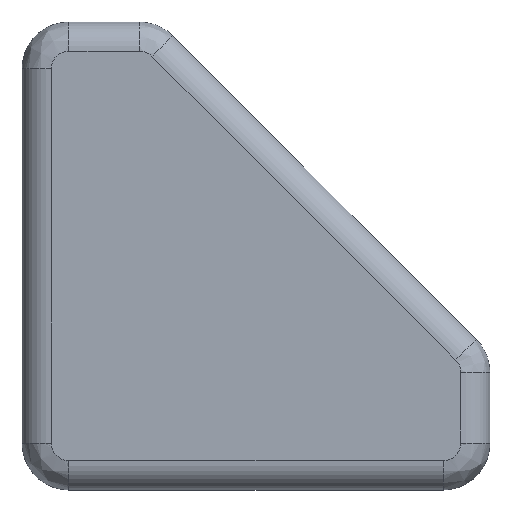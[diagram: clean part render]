
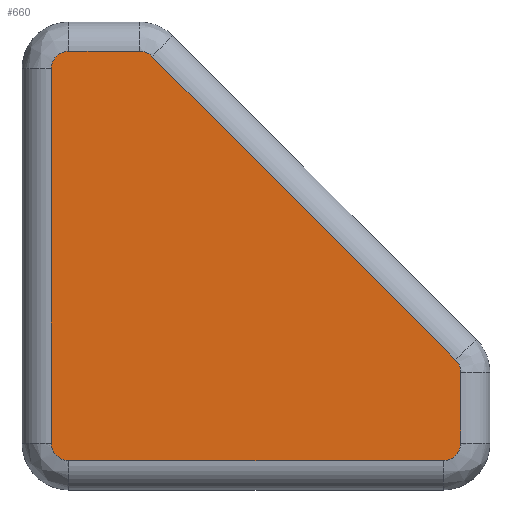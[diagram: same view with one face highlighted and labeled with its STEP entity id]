
A CAD part, top view. The second image highlights one B-rep face of the part: STEP entity #660.
In plain terms, the highlighted planar face has unit normal (0, 0, 1).
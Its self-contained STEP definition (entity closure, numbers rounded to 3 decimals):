
#10 = VERTEX_POINT ( 'NONE', #73 ) ;
#23 = LINE ( 'NONE', #275, #1376 ) ;
#36 = CARTESIAN_POINT ( 'NONE',  ( -17.5, -16., 4. ) ) ;
#62 = CARTESIAN_POINT ( 'NONE',  ( -16., -17.5, 4. ) ) ;
#63 = VECTOR ( 'NONE', #989, 1000. ) ;
#73 = CARTESIAN_POINT ( 'NONE',  ( -16., 17.5, 4. ) ) ;
#81 = CARTESIAN_POINT ( 'NONE',  ( 16.879, -17.5, 4. ) ) ;
#101 = CARTESIAN_POINT ( 'NONE',  ( -9.957, 17.5, 4. ) ) ;
#103 = CARTESIAN_POINT ( 'NONE',  ( -8.896, 17.061, 4. ) ) ;
#124 = CARTESIAN_POINT ( 'NONE',  ( -17.5, 16.879, 4. ) ) ;
#143 = LINE ( 'NONE', #510, #867 ) ;
#145 = VERTEX_POINT ( 'NONE', #466 ) ;
#146 = EDGE_CURVE ( 'NONE', #741, #1191, #684, .T. ) ;
#157 = AXIS2_PLACEMENT_3D ( 'NONE', #973, #1193, #1456 ) ;
#229 = ORIENTED_EDGE ( 'NONE', *, *, #922, .F. ) ;
#252 = CARTESIAN_POINT ( 'NONE',  ( 17.5, -9.957, 4. ) ) ;
#254 = B_SPLINE_CURVE_WITH_KNOTS ( 'NONE', 3,
 ( #1099, #269, #1115, #523, #887, #1219 ),
 .UNSPECIFIED., .F., .F.,
 ( 4, 2, 4 ),
 ( 0., 0.5, 1. ),
 .UNSPECIFIED. ) ;
#266 = VERTEX_POINT ( 'NONE', #463 ) ;
#269 = CARTESIAN_POINT ( 'NONE',  ( -9.037, 17.201, 4. ) ) ;
#275 = CARTESIAN_POINT ( 'NONE',  ( 17.5, -20., 4. ) ) ;
#285 = EDGE_CURVE ( 'NONE', #1191, #1007, #375, .T. ) ;
#357 = DIRECTION ( 'NONE',  ( 0., -1., 0. ) ) ;
#364 = EDGE_LOOP ( 'NONE', ( #498, #229, #731, #1467, #1222, #1247, #1350, #746, #1103, #616 ) ) ;
#368 = EDGE_CURVE ( 'NONE', #1334, #1515, #393, .T. ) ;
#375 = LINE ( 'NONE', #471, #1463 ) ;
#393 =( BOUNDED_CURVE ( )  B_SPLINE_CURVE ( 3, ( #940, #1311, #1215, #252 ),
 .UNSPECIFIED., .F., .F. ) 
 B_SPLINE_CURVE_WITH_KNOTS ( ( 4, 4 ),
 ( 0., 1. ),
 .UNSPECIFIED. ) 
 CURVE ( )  GEOMETRIC_REPRESENTATION_ITEM ( )  RATIONAL_B_SPLINE_CURVE ( ( 1., 0.949, 0.949, 1. ) ) 
 REPRESENTATION_ITEM ( '' )  );
#415 = EDGE_CURVE ( 'NONE', #1007, #145, #1429, .T. ) ;
#442 =( BOUNDED_CURVE ( )  B_SPLINE_CURVE ( 3, ( #456, #124, #1187, #1209 ),
 .UNSPECIFIED., .F., .F. ) 
 B_SPLINE_CURVE_WITH_KNOTS ( ( 4, 4 ),
 ( 0., 1. ),
 .UNSPECIFIED. ) 
 CURVE ( )  GEOMETRIC_REPRESENTATION_ITEM ( )  RATIONAL_B_SPLINE_CURVE ( ( 1., 0.805, 0.805, 1. ) ) 
 REPRESENTATION_ITEM ( '' )  );
#456 = CARTESIAN_POINT ( 'NONE',  ( -17.5, 16., 4. ) ) ;
#463 = CARTESIAN_POINT ( 'NONE',  ( -17.5, 16., 4. ) ) ;
#466 = CARTESIAN_POINT ( 'NONE',  ( -17.5, -16., 4. ) ) ;
#471 = CARTESIAN_POINT ( 'NONE',  ( -20., -17.5, 4. ) ) ;
#473 = CARTESIAN_POINT ( 'NONE',  ( 20., 17.5, 4. ) ) ;
#498 = ORIENTED_EDGE ( 'NONE', *, *, #368, .F. ) ;
#510 = CARTESIAN_POINT ( 'NONE',  ( -17.5, 20., 4. ) ) ;
#523 = CARTESIAN_POINT ( 'NONE',  ( -9.566, 17.462, 4. ) ) ;
#558 = VECTOR ( 'NONE', #685, 1000. ) ;
#563 = CARTESIAN_POINT ( 'NONE',  ( 17.5, -16.879, 4. ) ) ;
#597 = FACE_OUTER_BOUND ( 'NONE', #364, .T. ) ;
#613 = DIRECTION ( 'NONE',  ( 0., 1., 0. ) ) ;
#616 = ORIENTED_EDGE ( 'NONE', *, *, #1502, .F. ) ;
#642 = LINE ( 'NONE', #1462, #63 ) ;
#660 = ADVANCED_FACE ( 'NONE', ( #597 ), #1546, .T. ) ;
#684 =( BOUNDED_CURVE ( )  B_SPLINE_CURVE ( 3, ( #1418, #563, #81, #1079 ),
 .UNSPECIFIED., .F., .T. ) 
 B_SPLINE_CURVE_WITH_KNOTS ( ( 4, 4 ),
 ( 0., 1. ),
 .UNSPECIFIED. ) 
 CURVE ( )  GEOMETRIC_REPRESENTATION_ITEM ( )  RATIONAL_B_SPLINE_CURVE ( ( 1., 0.805, 0.805, 1. ) ) 
 REPRESENTATION_ITEM ( '' )  );
#685 = DIRECTION ( 'NONE',  ( 1., 0., 0. ) ) ;
#693 = CARTESIAN_POINT ( 'NONE',  ( 17.5, -16., 4. ) ) ;
#698 = VERTEX_POINT ( 'NONE', #103 ) ;
#731 = ORIENTED_EDGE ( 'NONE', *, *, #897, .T. ) ;
#741 = VERTEX_POINT ( 'NONE', #693 ) ;
#746 = ORIENTED_EDGE ( 'NONE', *, *, #285, .F. ) ;
#867 = VECTOR ( 'NONE', #613, 1000. ) ;
#871 = EDGE_CURVE ( 'NONE', #145, #266, #143, .T. ) ;
#887 = CARTESIAN_POINT ( 'NONE',  ( -9.758, 17.5, 4. ) ) ;
#897 = EDGE_CURVE ( 'NONE', #698, #1077, #254, .T. ) ;
#922 = EDGE_CURVE ( 'NONE', #698, #1334, #642, .T. ) ;
#940 = CARTESIAN_POINT ( 'NONE',  ( 17.061, -8.896, 4. ) ) ;
#973 = CARTESIAN_POINT ( 'NONE',  ( -3.468, -3.468, 4. ) ) ;
#989 = DIRECTION ( 'NONE',  ( 0.707, -0.707, 0. ) ) ;
#1007 = VERTEX_POINT ( 'NONE', #62 ) ;
#1011 = CARTESIAN_POINT ( 'NONE',  ( -16., -17.5, 4. ) ) ;
#1077 = VERTEX_POINT ( 'NONE', #101 ) ;
#1079 = CARTESIAN_POINT ( 'NONE',  ( 16., -17.5, 4. ) ) ;
#1099 = CARTESIAN_POINT ( 'NONE',  ( -8.896, 17.061, 4. ) ) ;
#1103 = ORIENTED_EDGE ( 'NONE', *, *, #146, .F. ) ;
#1108 = CARTESIAN_POINT ( 'NONE',  ( -16.879, -17.5, 4. ) ) ;
#1115 = CARTESIAN_POINT ( 'NONE',  ( -9.199, 17.31, 4. ) ) ;
#1187 = CARTESIAN_POINT ( 'NONE',  ( -16.879, 17.5, 4. ) ) ;
#1191 = VERTEX_POINT ( 'NONE', #1315 ) ;
#1193 = DIRECTION ( 'NONE',  ( 0., 0., 1. ) ) ;
#1209 = CARTESIAN_POINT ( 'NONE',  ( -16., 17.5, 4. ) ) ;
#1215 = CARTESIAN_POINT ( 'NONE',  ( 17.5, -9.554, 4. ) ) ;
#1219 = CARTESIAN_POINT ( 'NONE',  ( -9.957, 17.5, 4. ) ) ;
#1222 = ORIENTED_EDGE ( 'NONE', *, *, #1225, .F. ) ;
#1225 = EDGE_CURVE ( 'NONE', #266, #10, #442, .T. ) ;
#1247 = ORIENTED_EDGE ( 'NONE', *, *, #871, .F. ) ;
#1284 = EDGE_CURVE ( 'NONE', #10, #1077, #1549, .T. ) ;
#1311 = CARTESIAN_POINT ( 'NONE',  ( 17.346, -9.181, 4. ) ) ;
#1315 = CARTESIAN_POINT ( 'NONE',  ( 16., -17.5, 4. ) ) ;
#1334 = VERTEX_POINT ( 'NONE', #1452 ) ;
#1350 = ORIENTED_EDGE ( 'NONE', *, *, #415, .F. ) ;
#1357 = CARTESIAN_POINT ( 'NONE',  ( 17.5, -9.957, 4. ) ) ;
#1376 = VECTOR ( 'NONE', #357, 1000. ) ;
#1418 = CARTESIAN_POINT ( 'NONE',  ( 17.5, -16., 4. ) ) ;
#1429 =( BOUNDED_CURVE ( )  B_SPLINE_CURVE ( 3, ( #1011, #1108, #1487, #36 ),
 .UNSPECIFIED., .F., .F. ) 
 B_SPLINE_CURVE_WITH_KNOTS ( ( 4, 4 ),
 ( 0., 1. ),
 .UNSPECIFIED. ) 
 CURVE ( )  GEOMETRIC_REPRESENTATION_ITEM ( )  RATIONAL_B_SPLINE_CURVE ( ( 1., 0.805, 0.805, 1. ) ) 
 REPRESENTATION_ITEM ( '' )  );
#1444 = DIRECTION ( 'NONE',  ( -1., 0., 0. ) ) ;
#1452 = CARTESIAN_POINT ( 'NONE',  ( 17.061, -8.896, 4. ) ) ;
#1456 = DIRECTION ( 'NONE',  ( 1., 0., 0. ) ) ;
#1462 = CARTESIAN_POINT ( 'NONE',  ( -13.595, 21.76, 4. ) ) ;
#1463 = VECTOR ( 'NONE', #1444, 1000. ) ;
#1467 = ORIENTED_EDGE ( 'NONE', *, *, #1284, .F. ) ;
#1487 = CARTESIAN_POINT ( 'NONE',  ( -17.5, -16.879, 4. ) ) ;
#1502 = EDGE_CURVE ( 'NONE', #1515, #741, #23, .T. ) ;
#1515 = VERTEX_POINT ( 'NONE', #1357 ) ;
#1546 = PLANE ( 'NONE',  #157 ) ;
#1549 = LINE ( 'NONE', #473, #558 ) ;
